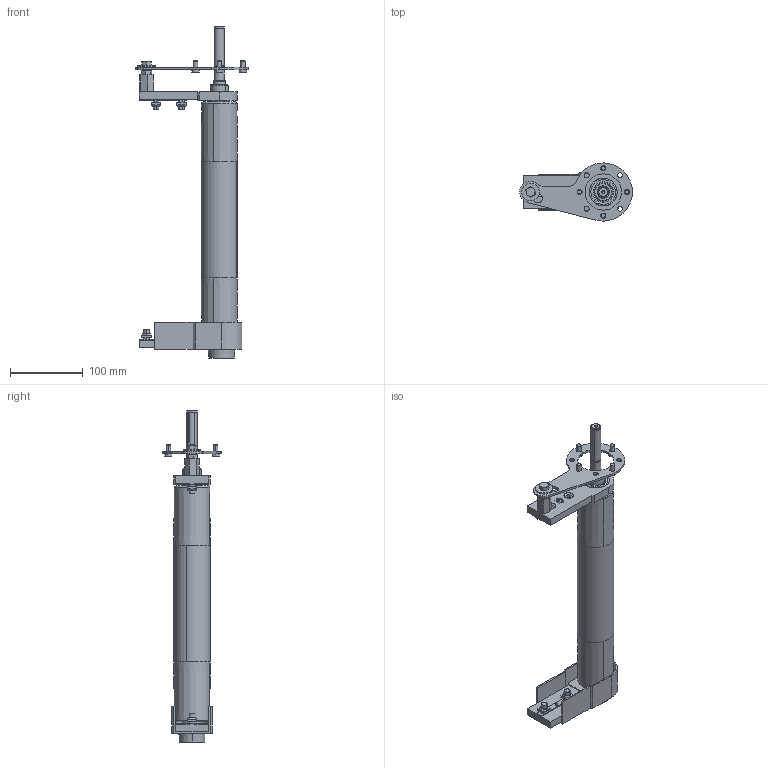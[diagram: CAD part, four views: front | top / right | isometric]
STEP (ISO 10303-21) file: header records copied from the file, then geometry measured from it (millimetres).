
FILE_DESCRIPTION (( 'STEP AP203' ), '1' );
FILE_NAME ('084.050.KDC.30.300.STEP', '2019-07-29T10:14:51', ( '' ), ( '' ), 'SwSTEP 2.0', 'SolidWorks 2018', '' );
FILE_SCHEMA (( 'CONFIG_CONTROL_DESIGN' ));
Length unit declared in the file: millimetre
Products named in the file (20): 084.050.KDC.30.300; 084.807.004_084.807.004; 084.811.001; 084.302.000 DADI ALUSIC 13x13_084.302.004; DADI ESAGONALI RIBASSATI UNI 5589_M8 UNI 5589; GRANI A PUNTA PIATTA UNI 5923_M8x25 UNI 5923; RONDELLE FASCIA LARGA UNI 6593_8.4x24 UNI 6593; VITI TE UNI 5739_M8x25 UNI 5739; 084.301.000 VITI ALUSIC_084.301.010; VITI TSEI UNI 5933_M4x12 UNI 5933; 084.811.004; 084.807.005; 084.802.027; 084.000.A02_CON DADO; 084.815.105_Default<A macchina>; 084.807.013_084.807.003; 084.802.017_084.802.017; 084.810.001; 084.301.000 VITI ALUSIC_084.301.003; 084.802.023_084.802.023
Assembly tree (31 placements, depth 3):
  084.050.KDC.30.300
    084.807.004_084.807.004
    084.807.013_084.807.003
    084.802.017_084.802.017  x2
    084.811.004
    084.815.105_Default<A macchina>
    084.810.001  x2
    084.811.001
    084.802.023_084.802.023
    084.000.A02_CON DADO
      084.807.005
      084.802.027
      GRANI A PUNTA PIATTA UNI 5923_M8x25 UNI 5923
      084.301.000 VITI ALUSIC_084.301.010  x4
      DADI ESAGONALI RIBASSATI UNI 5589_M8 UNI 5589
      RONDELLE FASCIA LARGA UNI 6593_8.4x24 UNI 6593
      VITI TE UNI 5739_M8x25 UNI 5739
    084.301.000 VITI ALUSIC_084.301.003  x4
    084.302.000 DADI ALUSIC 13x13_084.302.004  x4
    VITI TSEI UNI 5933_M4x12 UNI 5933  x2
Bounding box: 154.99 x 80 x 456.5 mm (x, y, z)
Volume: 464520.2 mm3; surface area: 295223.5 mm2
Topology: 32 solids, 34 shells, 909 faces, 2222 edges, 1432 vertices
Faces by surface type: plane 392, cylinder 267, cone 110, torus 78, bspline 54, sphere 8
Entity records: 22731 total; most frequent: CARTESIAN_POINT 4664, DIRECTION 3293, ORIENTED_EDGE 3212, EDGE_CURVE 1606, AXIS2_PLACEMENT_3D 1257, VERTEX_POINT 1040, VECTOR 779, LINE 779
